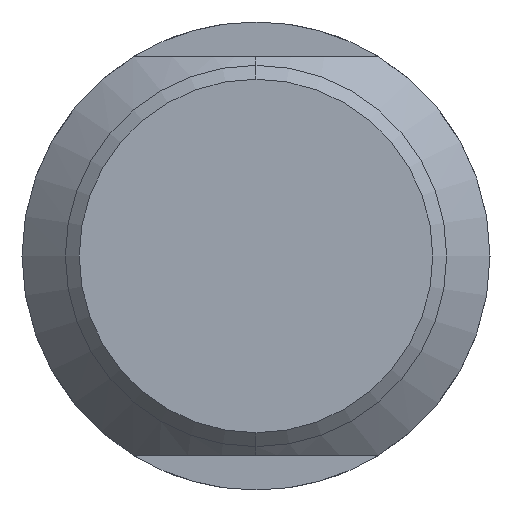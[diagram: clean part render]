
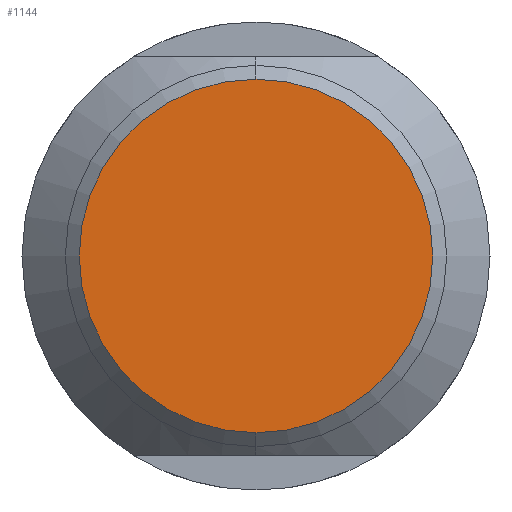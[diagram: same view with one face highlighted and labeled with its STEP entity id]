
A CAD part, left-side view. The second image highlights one B-rep face of the part: STEP entity #1144.
In plain terms, the highlighted planar face has unit normal (-1, 0, 0).
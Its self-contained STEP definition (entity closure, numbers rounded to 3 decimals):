
#1 = ORIENTED_EDGE ( 'NONE', *, *, #1431, .T. ) ;
#28 = CIRCLE ( 'NONE', #1024, 10.2 ) ;
#180 = DIRECTION ( 'NONE',  ( 0., 0., 1. ) ) ;
#181 = VERTEX_POINT ( 'NONE', #352 ) ;
#350 = DIRECTION ( 'NONE',  ( -1., 0., 0. ) ) ;
#352 = CARTESIAN_POINT ( 'NONE',  ( -12.6, 0., 10.2 ) ) ;
#420 = AXIS2_PLACEMENT_3D ( 'NONE', #806, #350, #180 ) ;
#421 = AXIS2_PLACEMENT_3D ( 'NONE', #841, #464, #1414 ) ;
#464 = DIRECTION ( 'NONE',  ( -1., 0., 0. ) ) ;
#481 = DIRECTION ( 'NONE',  ( 0., 0., 1. ) ) ;
#518 = CIRCLE ( 'NONE', #421, 10.2 ) ;
#539 = VERTEX_POINT ( 'NONE', #1105 ) ;
#552 = DIRECTION ( 'NONE',  ( -1., 0., 0. ) ) ;
#564 = CARTESIAN_POINT ( 'NONE',  ( -12.6, 0., 0. ) ) ;
#699 = ORIENTED_EDGE ( 'NONE', *, *, #1276, .T. ) ;
#806 = CARTESIAN_POINT ( 'NONE',  ( -12.6, 0., 0. ) ) ;
#841 = CARTESIAN_POINT ( 'NONE',  ( -12.6, 0., 0. ) ) ;
#911 = PLANE ( 'NONE',  #420 ) ;
#1024 = AXIS2_PLACEMENT_3D ( 'NONE', #564, #552, #481 ) ;
#1105 = CARTESIAN_POINT ( 'NONE',  ( -12.6, 0., -10.2 ) ) ;
#1144 = ADVANCED_FACE ( 'NONE', ( #1377 ), #911, .T. ) ;
#1276 = EDGE_CURVE ( 'NONE', #539, #181, #28, .T. ) ;
#1377 = FACE_OUTER_BOUND ( 'NONE', #1382, .T. ) ;
#1382 = EDGE_LOOP ( 'NONE', ( #699, #1 ) ) ;
#1414 = DIRECTION ( 'NONE',  ( 0., 0., 1. ) ) ;
#1431 = EDGE_CURVE ( 'NONE', #181, #539, #518, .T. ) ;
